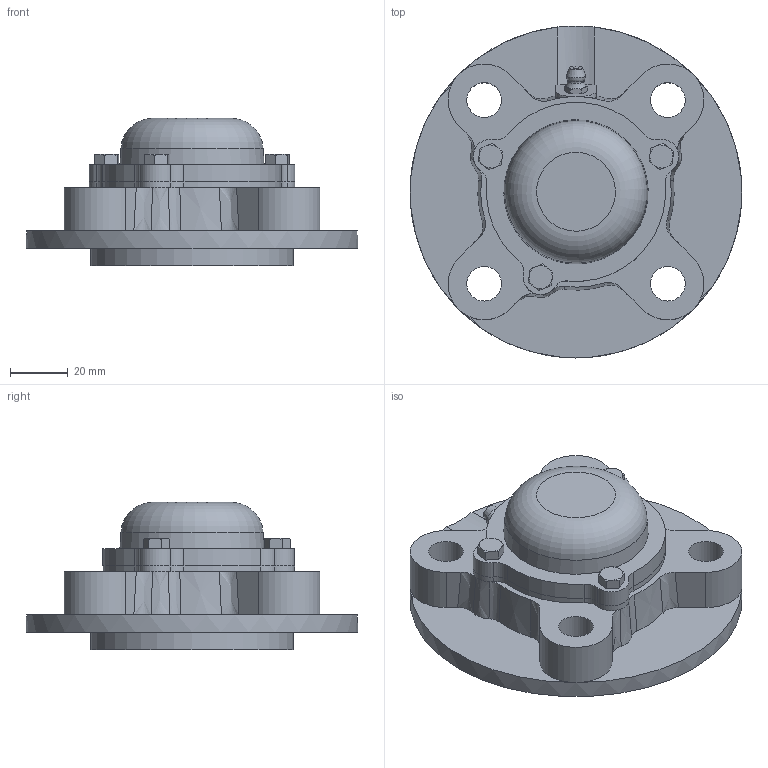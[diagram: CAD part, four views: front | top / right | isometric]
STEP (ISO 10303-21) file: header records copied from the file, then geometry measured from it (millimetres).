
FILE_DESCRIPTION((''),'2;1');
FILE_NAME('\\Ts-tgl068\j-cad-d-base\00.3DCADデータ作成フォルダ\02.フランジ形\CUKFC200\CUKFC205CE+H.stp','2014-05-22T08:57:21',('btec_1106_2'),(''),'Autodesk Inventor 2012','Autodesk Inventor 2012','');
FILE_SCHEMA(('AUTOMOTIVE_DESIGN { 1 0 10303 214 1 1 1 1 }'));
Length unit declared in the file: millimetre
Products named in the file (7): CUKFC200CE+H; CFC205; UK205; GU1; 205CE; M5X0
Assembly tree (8 placements, depth 3):
  CUKFC200CE+H
    CFC205
    UK205
    GU1
    205CE
      205CE
      M5X0  x3
Bounding box: 115 x 115 x 51 mm (x, y, z)
Volume: 174715.9 mm3; surface area: 57634.8 mm2
Topology: 7 solids, 7 shells, 300 faces, 760 edges, 488 vertices
Faces by surface type: plane 115, cylinder 83, cone 79, bspline 14, torus 5, sphere 4
Full cylindrical faces by diameter (mm): 4.134 x3, 5 x3, 5.359 x1, 6 x3, 6.35 x1, 12 x4, 20 x1, 34 x2, 44 x1, 50 x1, 54 x1, 70 x1, 115 x1
Entity records: 8443 total; most frequent: CARTESIAN_POINT 2262, ORIENTED_EDGE 1266, DIRECTION 1225, EDGE_CURVE 633, AXIS2_PLACEMENT_3D 516, VERTEX_POINT 426, EDGE_LOOP 338, FACE_OUTER_BOUND 266
